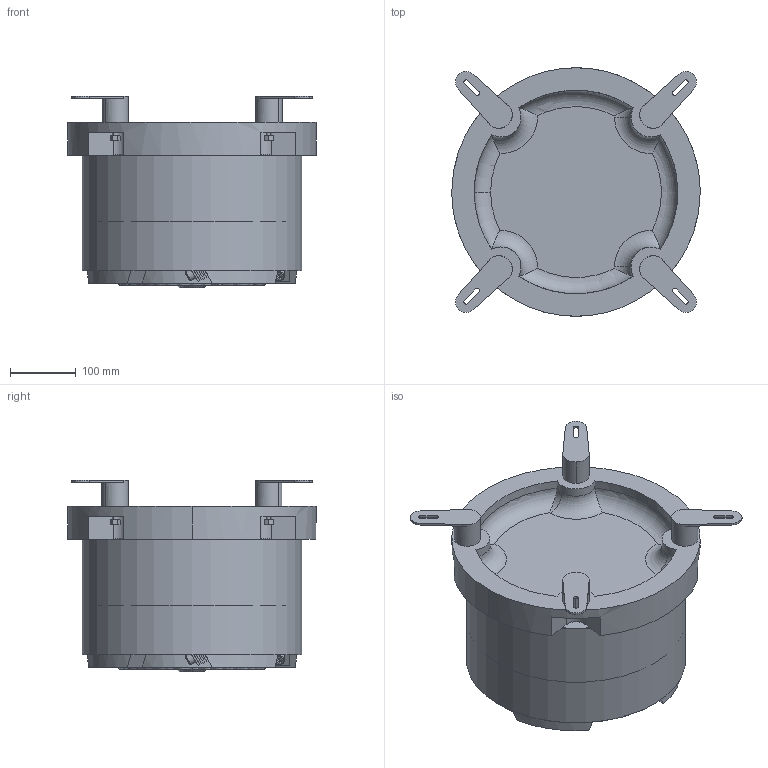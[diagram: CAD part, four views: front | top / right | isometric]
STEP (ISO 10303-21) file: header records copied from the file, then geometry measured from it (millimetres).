
FILE_DESCRIPTION(/* description */ (''),/* implementation_level */ '2;1');
FILE_NAME(/* name */ 'DE350 长片 铝盖.stp',/* time_stamp */ '2025-07-17T21:33:00+08:00',/* author */ (''),/* organization */ (''),/* preprocessor_version */ 'ST-DEVELOPER v18.102',/* originating_system */ 'SIEMENS PLM Software NX2206.1700',/* authorisation */ '');
FILE_SCHEMA (('AP203_CONFIGURATION_CONTROLLED_3D_DESIGN_OF_MECHANICAL_PARTS_AND_ASSEMBLIES_MIM_LF { 1 0 10303 403 2 1 2}'));
Length unit declared in the file: millimetre
Products named in the file (1): DE350 长片  铝盖 2023_stp_objects
Bounding box: 377 x 377 x 291 mm (x, y, z)
Volume: 14298399 mm3; surface area: 1182264.5 mm2
Topology: 40 solids, 40 shells, 575 faces, 1337 edges, 857 vertices
Faces by surface type: plane 315, cylinder 171, cone 62, torus 27
Full cylindrical faces by diameter (mm): 9 x4, 10.2 x1, 28.01 x4, 330 x1, 331 x1, 333 x1
Entity records: 17878 total; most frequent: CARTESIAN_POINT 4245, DIRECTION 2774, ORIENTED_EDGE 2630, EDGE_CURVE 1315, AXIS2_PLACEMENT_3D 1032, VERTEX_POINT 855, LINE 710, VECTOR 710
